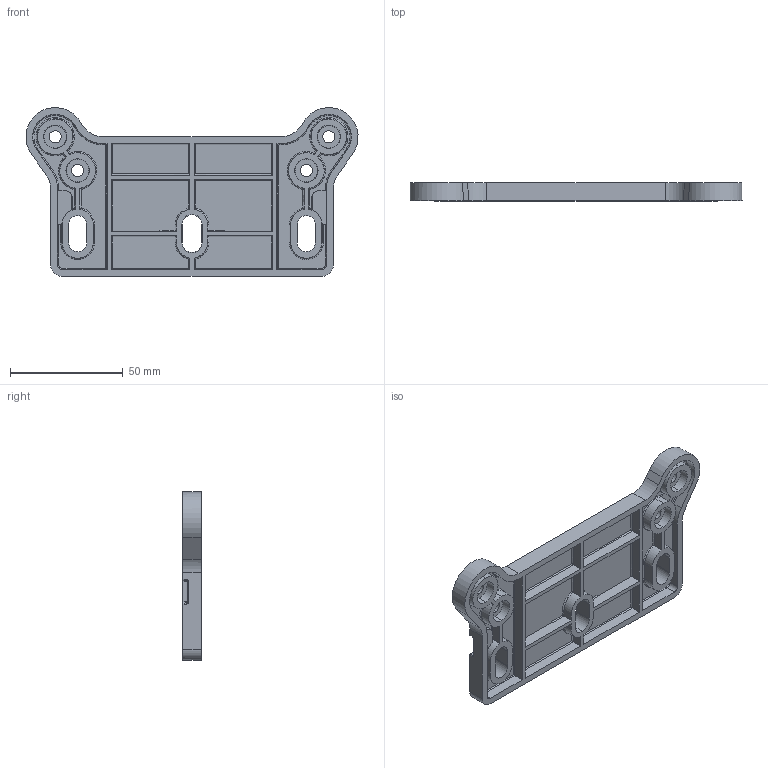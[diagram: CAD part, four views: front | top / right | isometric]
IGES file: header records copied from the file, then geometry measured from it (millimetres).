
Start section: SolidWorks IGES file using analytic representation for surfaces
Global section: file name: G:\3DRAW\ARCA\3DCAM\IGS\Flange6in.IGS; native system: SolidWorks 2008; preprocessor: SolidWorks 2008; author: KennethW; date: 090701.134110; units: millimetre
Bounding box: 147.5 x 8 x 74.95 mm (x, y, z)
Volume: 37946.8 mm3; surface area: 27694.2 mm2
Topology: 1 solids, 1 shells, 272 faces, 711 edges, 416 vertices
Faces by surface type: revolution 139, plane 100, bspline 33
